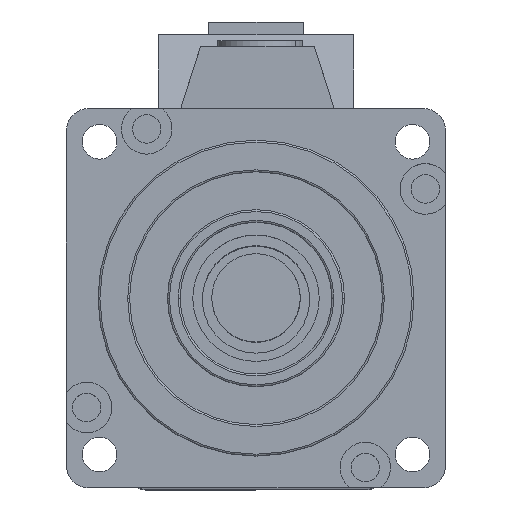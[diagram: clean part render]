
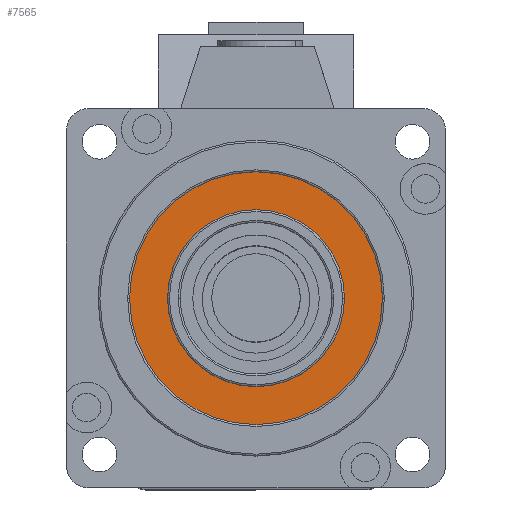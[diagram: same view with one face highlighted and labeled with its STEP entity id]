
A CAD part, top view. The second image highlights one B-rep face of the part: STEP entity #7565.
In plain terms, the highlighted planar face has unit normal (0, 0, 1).
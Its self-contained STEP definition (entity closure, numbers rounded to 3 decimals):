
#522 = CIRCLE ( 'NONE', #11423, 14. ) ;
#752 = CARTESIAN_POINT ( 'NONE',  ( 30., 30., 0. ) ) ;
#1663 = DIRECTION ( 'NONE',  ( 0., 0., 1. ) ) ;
#2318 = DIRECTION ( 'NONE',  ( 0., 0., 1. ) ) ;
#2695 = DIRECTION ( 'NONE',  ( 1., 0., 0. ) ) ;
#3122 = VERTEX_POINT ( 'NONE', #8663 ) ;
#3155 = DIRECTION ( 'NONE',  ( -1., 0., 0. ) ) ;
#3708 = CIRCLE ( 'NONE', #7086, 20. ) ;
#3798 = PLANE ( 'NONE',  #9543 ) ;
#3937 = VERTEX_POINT ( 'NONE', #11954 ) ;
#4237 = EDGE_CURVE ( 'NONE', #7837, #7928, #7021, .T. ) ;
#4546 = EDGE_LOOP ( 'NONE', ( #11986, #10447 ) ) ;
#5185 = FACE_OUTER_BOUND ( 'NONE', #4546, .T. ) ;
#5390 = CARTESIAN_POINT ( 'NONE',  ( 50., 30., 0. ) ) ;
#5404 = EDGE_LOOP ( 'NONE', ( #7154, #7253 ) ) ;
#6392 = CARTESIAN_POINT ( 'NONE',  ( 30., 30., 0. ) ) ;
#6748 = AXIS2_PLACEMENT_3D ( 'NONE', #6392, #2318, #3155 ) ;
#7021 = CIRCLE ( 'NONE', #13479, 20. ) ;
#7086 = AXIS2_PLACEMENT_3D ( 'NONE', #752, #10041, #8978 ) ;
#7154 = ORIENTED_EDGE ( 'NONE', *, *, #10396, .F. ) ;
#7253 = ORIENTED_EDGE ( 'NONE', *, *, #10528, .F. ) ;
#7523 = CIRCLE ( 'NONE', #6748, 14. ) ;
#7565 = ADVANCED_FACE ( 'NONE', ( #5185, #10470 ), #3798, .F. ) ;
#7837 = VERTEX_POINT ( 'NONE', #5390 ) ;
#7888 = CARTESIAN_POINT ( 'NONE',  ( 30., 30., 0. ) ) ;
#7928 = VERTEX_POINT ( 'NONE', #10855 ) ;
#8099 = DIRECTION ( 'NONE',  ( -1., 0., 0. ) ) ;
#8663 = CARTESIAN_POINT ( 'NONE',  ( 44., 30., 0. ) ) ;
#8978 = DIRECTION ( 'NONE',  ( 1., 0., 0. ) ) ;
#9543 = AXIS2_PLACEMENT_3D ( 'NONE', #10194, #12280, #8099 ) ;
#9705 = DIRECTION ( 'NONE',  ( -1., 0., 0. ) ) ;
#10041 = DIRECTION ( 'NONE',  ( 0., 0., 1. ) ) ;
#10194 = CARTESIAN_POINT ( 'NONE',  ( 3.5, 56.5, 0. ) ) ;
#10396 = EDGE_CURVE ( 'NONE', #3937, #3122, #7523, .T. ) ;
#10447 = ORIENTED_EDGE ( 'NONE', *, *, #4237, .T. ) ;
#10470 = FACE_BOUND ( 'NONE', #5404, .T. ) ;
#10528 = EDGE_CURVE ( 'NONE', #3122, #3937, #522, .T. ) ;
#10855 = CARTESIAN_POINT ( 'NONE',  ( 10., 30., 0. ) ) ;
#11423 = AXIS2_PLACEMENT_3D ( 'NONE', #11702, #11756, #9705 ) ;
#11702 = CARTESIAN_POINT ( 'NONE',  ( 30., 30., 0. ) ) ;
#11756 = DIRECTION ( 'NONE',  ( 0., 0., 1. ) ) ;
#11861 = EDGE_CURVE ( 'NONE', #7928, #7837, #3708, .T. ) ;
#11954 = CARTESIAN_POINT ( 'NONE',  ( 16., 30., 0. ) ) ;
#11986 = ORIENTED_EDGE ( 'NONE', *, *, #11861, .T. ) ;
#12280 = DIRECTION ( 'NONE',  ( 0., 0., -1. ) ) ;
#13479 = AXIS2_PLACEMENT_3D ( 'NONE', #7888, #1663, #2695 ) ;
